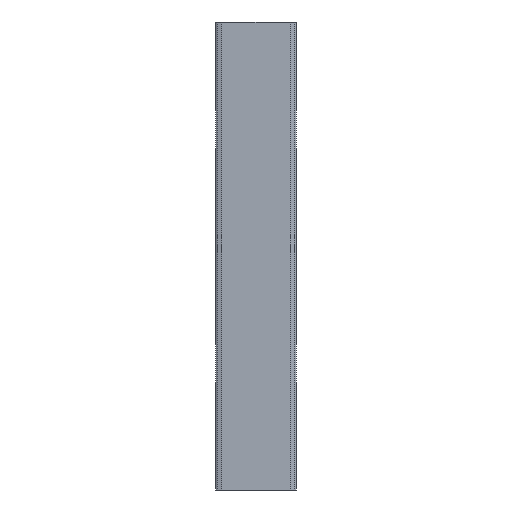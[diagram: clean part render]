
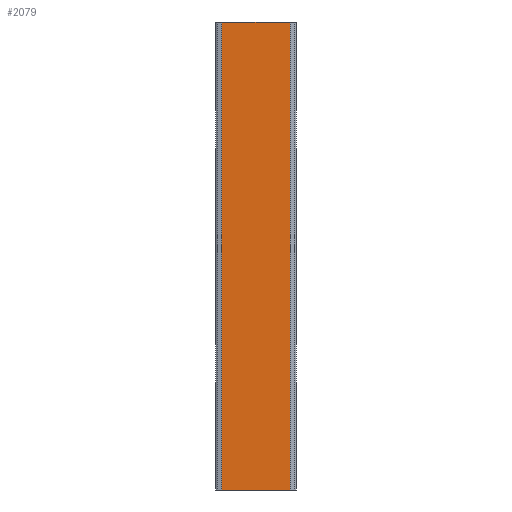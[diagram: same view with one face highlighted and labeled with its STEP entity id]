
A CAD part, front view. The second image highlights one B-rep face of the part: STEP entity #2079.
In plain terms, the highlighted planar face has unit normal (0, -1, 0).
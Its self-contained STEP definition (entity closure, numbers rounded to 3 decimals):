
#105=FACE_OUTER_BOUND('',#216,.T.);
#216=EDGE_LOOP('',(#1363,#1364,#1365,#1366));
#341=LINE('',#2850,#595);
#343=LINE('',#2854,#597);
#344=LINE('',#2856,#598);
#345=LINE('',#2857,#599);
#595=VECTOR('',#2348,10.);
#597=VECTOR('',#2352,10.);
#598=VECTOR('',#2353,10.);
#599=VECTOR('',#2354,10.);
#847=VERTEX_POINT('',#2847);
#848=VERTEX_POINT('',#2849);
#849=VERTEX_POINT('',#2853);
#850=VERTEX_POINT('',#2855);
#1053=EDGE_CURVE('',#848,#847,#341,.T.);
#1055=EDGE_CURVE('',#847,#849,#343,.T.);
#1056=EDGE_CURVE('',#850,#849,#344,.T.);
#1057=EDGE_CURVE('',#850,#848,#345,.T.);
#1363=ORIENTED_EDGE('',*,*,#1055,.T.);
#1364=ORIENTED_EDGE('',*,*,#1056,.F.);
#1365=ORIENTED_EDGE('',*,*,#1057,.T.);
#1366=ORIENTED_EDGE('',*,*,#1053,.T.);
#1966=PLANE('',#2214);
#2079=ADVANCED_FACE('',(#105),#1966,.T.);
#2214=AXIS2_PLACEMENT_3D('',#2852,#2350,#2351);
#2348=DIRECTION('',(0.,0.,1.));
#2350=DIRECTION('center_axis',(0.,-1.,0.));
#2351=DIRECTION('ref_axis',(0.,0.,-1.));
#2352=DIRECTION('',(-1.,0.,0.));
#2353=DIRECTION('',(0.,0.,1.));
#2354=DIRECTION('',(1.,0.,0.));
#2847=CARTESIAN_POINT('',(36.5,-11.,500.));
#2849=CARTESIAN_POINT('',(36.5,-11.,0.));
#2850=CARTESIAN_POINT('',(36.5,-11.,0.));
#2852=CARTESIAN_POINT('Origin',(36.5,-11.,0.));
#2853=CARTESIAN_POINT('',(-36.5,-11.,500.));
#2854=CARTESIAN_POINT('',(-36.5,-11.,500.));
#2855=CARTESIAN_POINT('',(-36.5,-11.,0.));
#2856=CARTESIAN_POINT('',(-36.5,-11.,0.));
#2857=CARTESIAN_POINT('',(-36.5,-11.,0.));
